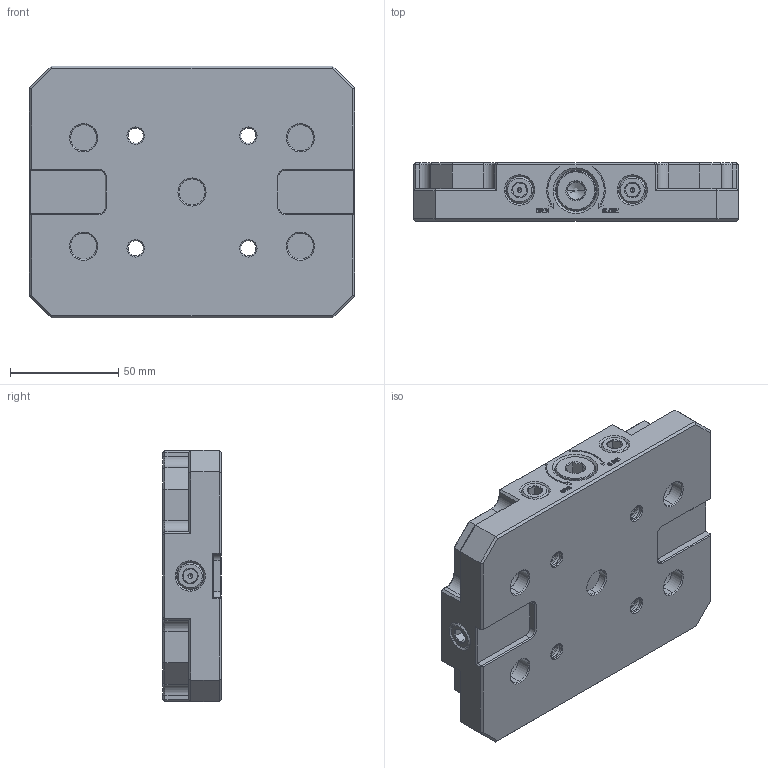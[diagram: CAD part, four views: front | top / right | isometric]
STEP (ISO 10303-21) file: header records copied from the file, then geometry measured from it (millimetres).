
FILE_DESCRIPTION((''),'2;1');
FILE_NAME('TI_WH_52ZPS_SS150NP001_ASM','2026-06-07T17:38:31',('Admin'),(''),'CREO PARAMETRIC BY PTC INC, 2025010','CREO PARAMETRIC BY PTC INC, 2025010','');
FILE_SCHEMA(('CONFIG_CONTROL_DESIGN'));
Length unit declared in the file: millimetre
Products named in the file (16): B40101-00003_-73500001; B40101-00003_-92950001; B40101-00003_-10730001; B40101-00003_-18880001; _30001; B40101-00003_-23690001; B11500-00184_O--270001; B40101-00003_-30480001; B11500-00184_O--310001; F009-0010923B_-1-S0001; 200; B11500-00184_O--420001; B11500-00184_O--430001; NT-S52P150V1_ASM; CAP_1; TI_WH_52ZPS_SS150NP001_ASM
Assembly tree (18 placements, depth 3):
  TI_WH_52ZPS_SS150NP001_ASM
    NT-S52P150V1_ASM
      B40101-00003_-73500001
      B40101-00003_-92950001
      B40101-00003_-10730001
      B40101-00003_-18880001
      _30001
      B40101-00003_-23690001
      B11500-00184_O--270001
      B40101-00003_-30480001
      B11500-00184_O--310001
      F009-0010923B_-1-S0001
      200
      B11500-00184_O--420001
      B11500-00184_O--430001
    CAP_1  x4
Bounding box: 150 x 27 x 116 mm (x, y, z)
Volume: 395311.5 mm3; surface area: 72080.8 mm2
Topology: 17 solids, 17 shells, 798 faces, 1839 edges, 1107 vertices
Faces by surface type: plane 349, cone 200, cylinder 180, extrusion 40, torus 26, bspline 3
Entity records: 30446 total; most frequent: CARTESIAN_POINT 13302, DIRECTION 3573, ORIENTED_EDGE 3394, EDGE_CURVE 1697, AXIS2_PLACEMENT_3D 1287, VERTEX_POINT 1035, VECTOR 999, LINE 959
